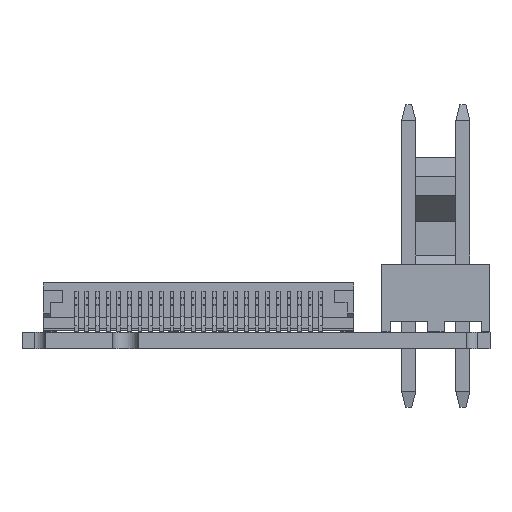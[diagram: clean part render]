
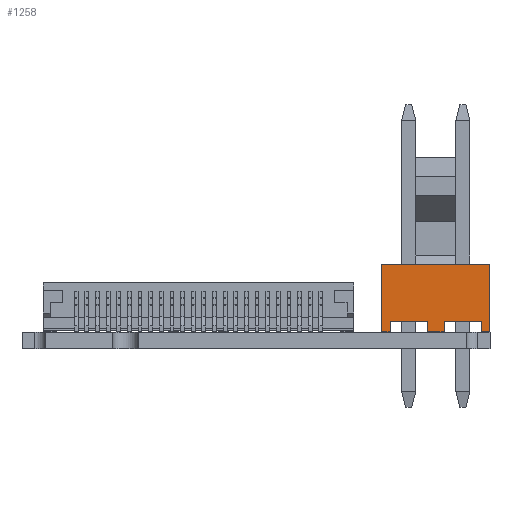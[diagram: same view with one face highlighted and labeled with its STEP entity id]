
A CAD part, front view. The second image highlights one B-rep face of the part: STEP entity #1258.
In plain terms, the highlighted planar face has unit normal (0, -1, 0).
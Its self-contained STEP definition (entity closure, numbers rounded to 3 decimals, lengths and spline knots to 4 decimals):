
#1258=ADVANCED_FACE('',(#4127),#2869,.T.);
#2869=PLANE('',#35160);
#4127=FACE_OUTER_BOUND('',#5707,.T.);
#5707=EDGE_LOOP('',(#7419,#7420,#7421,#7422,#7423,#7424,#7425,#7426,#7427,
#7428,#7429,#7430));
#7419=ORIENTED_EDGE('',*,*,#21133,.F.);
#7420=ORIENTED_EDGE('',*,*,#21134,.F.);
#7421=ORIENTED_EDGE('',*,*,#21135,.F.);
#7422=ORIENTED_EDGE('',*,*,#21136,.T.);
#7423=ORIENTED_EDGE('',*,*,#21131,.T.);
#7424=ORIENTED_EDGE('',*,*,#21137,.F.);
#7425=ORIENTED_EDGE('',*,*,#21116,.F.);
#7426=ORIENTED_EDGE('',*,*,#21111,.T.);
#7427=ORIENTED_EDGE('',*,*,#21138,.F.);
#7428=ORIENTED_EDGE('',*,*,#21139,.F.);
#7429=ORIENTED_EDGE('',*,*,#21140,.F.);
#7430=ORIENTED_EDGE('',*,*,#21107,.T.);
#17716=VERTEX_POINT('',#46601);
#17717=VERTEX_POINT('',#46603);
#17720=VERTEX_POINT('',#46610);
#17721=VERTEX_POINT('',#46612);
#17724=VERTEX_POINT('',#46619);
#17736=VERTEX_POINT('',#46649);
#17737=VERTEX_POINT('',#46651);
#17738=VERTEX_POINT('',#46655);
#17739=VERTEX_POINT('',#46657);
#17740=VERTEX_POINT('',#46659);
#17741=VERTEX_POINT('',#46663);
#17742=VERTEX_POINT('',#46665);
#21107=EDGE_CURVE('',#17717,#17716,#26271,.T.);
#21111=EDGE_CURVE('',#17721,#17720,#26275,.T.);
#21116=EDGE_CURVE('',#17721,#17724,#26280,.T.);
#21131=EDGE_CURVE('',#17737,#17736,#26295,.T.);
#21133=EDGE_CURVE('',#17738,#17716,#26297,.T.);
#21134=EDGE_CURVE('',#17739,#17738,#26298,.T.);
#21135=EDGE_CURVE('',#17740,#17739,#26299,.T.);
#21136=EDGE_CURVE('',#17740,#17737,#26300,.T.);
#21137=EDGE_CURVE('',#17724,#17736,#26301,.T.);
#21138=EDGE_CURVE('',#17741,#17720,#26302,.T.);
#21139=EDGE_CURVE('',#17742,#17741,#26303,.T.);
#21140=EDGE_CURVE('',#17717,#17742,#26304,.T.);
#26271=LINE('',#46602,#30713);
#26275=LINE('',#46611,#30717);
#26280=LINE('',#46621,#30722);
#26295=LINE('',#46650,#30737);
#26297=LINE('',#46654,#30739);
#26298=LINE('',#46656,#30740);
#26299=LINE('',#46658,#30741);
#26300=LINE('',#46660,#30742);
#26301=LINE('',#46661,#30743);
#26302=LINE('',#46662,#30744);
#26303=LINE('',#46664,#30745);
#26304=LINE('',#46666,#30746);
#30713=VECTOR('',#37491,1.);
#30717=VECTOR('',#37497,1.);
#30722=VECTOR('',#37504,1.);
#30737=VECTOR('',#37523,1.);
#30739=VECTOR('',#37527,1.);
#30740=VECTOR('',#37528,1.);
#30741=VECTOR('',#37529,1.);
#30742=VECTOR('',#37530,1.);
#30743=VECTOR('',#37531,1.);
#30744=VECTOR('',#37532,1.);
#30745=VECTOR('',#37533,1.);
#30746=VECTOR('',#37534,1.);
#35160=AXIS2_PLACEMENT_3D('',#46667,#37535,#37536);
#37491=DIRECTION('',(1.,0.,0.));
#37497=DIRECTION('',(1.,0.,0.));
#37504=DIRECTION('',(0.,0.,1.));
#37523=DIRECTION('',(0.,0.,1.));
#37527=DIRECTION('',(0.,0.,-1.));
#37528=DIRECTION('',(-1.,0.,0.));
#37529=DIRECTION('',(0.,0.,1.));
#37530=DIRECTION('',(1.,0.,0.));
#37531=DIRECTION('',(1.,0.,0.));
#37532=DIRECTION('',(0.,0.,-1.));
#37533=DIRECTION('',(-1.,0.,0.));
#37534=DIRECTION('',(0.,0.,1.));
#37535=DIRECTION('',(0.,-1.,0.));
#37536=DIRECTION('',(-1.,0.,0.));
#46601=CARTESIAN_POINT('',(-258.055,-328.8001,0.0247));
#46602=CARTESIAN_POINT('',(-260.99,-328.8001,0.0247));
#46603=CARTESIAN_POINT('',(-258.845,-328.8001,0.0247));
#46610=CARTESIAN_POINT('',(-260.595,-328.8001,0.0247));
#46611=CARTESIAN_POINT('',(-260.99,-328.8001,0.0247));
#46612=CARTESIAN_POINT('',(-260.99,-328.8001,0.0247));
#46619=CARTESIAN_POINT('',(-260.99,-328.8001,3.2047));
#46621=CARTESIAN_POINT('',(-260.99,-328.8001,0.0247));
#46649=CARTESIAN_POINT('',(-255.91,-328.8001,3.2047));
#46650=CARTESIAN_POINT('',(-255.91,-328.8001,0.0247));
#46651=CARTESIAN_POINT('',(-255.91,-328.8001,0.0247));
#46654=CARTESIAN_POINT('',(-258.055,-328.8001,0.0247));
#46655=CARTESIAN_POINT('',(-258.055,-328.8001,0.5247));
#46656=CARTESIAN_POINT('',(-256.305,-328.8001,0.5247));
#46657=CARTESIAN_POINT('',(-256.305,-328.8001,0.5247));
#46658=CARTESIAN_POINT('',(-256.305,-328.8001,0.0247));
#46659=CARTESIAN_POINT('',(-256.305,-328.8001,0.0247));
#46660=CARTESIAN_POINT('',(-260.99,-328.8001,0.0247));
#46661=CARTESIAN_POINT('',(-260.99,-328.8001,3.2047));
#46662=CARTESIAN_POINT('',(-260.595,-328.8001,0.0247));
#46663=CARTESIAN_POINT('',(-260.595,-328.8001,0.5247));
#46664=CARTESIAN_POINT('',(-260.595,-328.8001,0.5247));
#46665=CARTESIAN_POINT('',(-258.845,-328.8001,0.5247));
#46666=CARTESIAN_POINT('',(-258.845,-328.8001,0.0247));
#46667=CARTESIAN_POINT('',(-260.99,-328.8001,0.0247));
